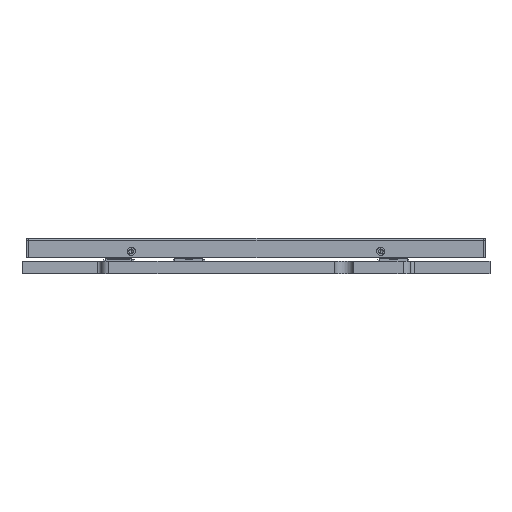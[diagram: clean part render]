
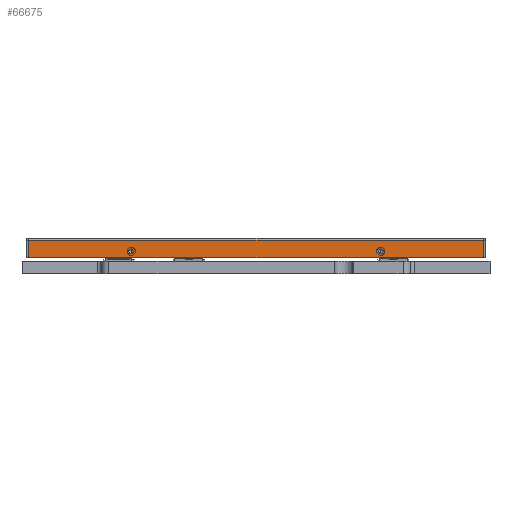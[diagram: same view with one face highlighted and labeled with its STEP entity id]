
A CAD part, front view. The second image highlights one B-rep face of the part: STEP entity #66675.
In plain terms, the highlighted planar face has unit normal (0, -1, 0) as drawn and (0, 0, 1) by its records, which use the part's own axes.
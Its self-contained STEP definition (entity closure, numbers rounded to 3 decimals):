
#15430=DIRECTION('',(0.,-1.,0.));
#15431=VECTOR('',#15430,1.1);
#15432=CARTESIAN_POINT('',(-14.58,1.25,17.055));
#15433=LINE('',#15432,#15431);
#15437=DIRECTION('',(0.,1.,0.));
#15438=VECTOR('',#15437,1.1);
#15439=CARTESIAN_POINT('',(14.58,0.15,17.055));
#15440=LINE('',#15439,#15438);
#15444=DIRECTION('',(1.,0.,0.));
#15445=VECTOR('',#15444,29.16);
#15446=CARTESIAN_POINT('',(-14.58,0.15,17.055));
#15447=LINE('',#15446,#15445);
#15451=CARTESIAN_POINT('',(8.,0.55,17.055));
#15452=DIRECTION('',(0.,0.,1.));
#15453=DIRECTION('',(0.,1.,0.));
#15454=AXIS2_PLACEMENT_3D('',#15451,#15452,#15453);
#15459=CARTESIAN_POINT('',(8.,0.55,17.055));
#15460=DIRECTION('',(0.,0.,1.));
#15461=DIRECTION('',(0.,-1.,0.));
#15462=AXIS2_PLACEMENT_3D('',#15459,#15460,#15461);
#15467=CARTESIAN_POINT('',(-8.,0.55,17.055));
#15468=DIRECTION('',(0.,0.,1.));
#15469=DIRECTION('',(0.,1.,0.));
#15470=AXIS2_PLACEMENT_3D('',#15467,#15468,#15469);
#15475=CARTESIAN_POINT('',(-8.,0.55,17.055));
#15476=DIRECTION('',(0.,0.,1.));
#15477=DIRECTION('',(0.,-1.,0.));
#15478=AXIS2_PLACEMENT_3D('',#15475,#15476,#15477);
#15483=DIRECTION('',(-1.,0.,0.));
#15484=VECTOR('',#15483,29.16);
#15485=CARTESIAN_POINT('',(14.58,1.25,17.055));
#15486=LINE('',#15485,#15484);
#58617=CARTESIAN_POINT('',(-14.58,1.25,17.055));
#58618=CARTESIAN_POINT('',(-14.58,0.15,17.055));
#58619=VERTEX_POINT('',#58617);
#58620=VERTEX_POINT('',#58618);
#58621=CARTESIAN_POINT('',(14.58,0.15,17.055));
#58622=VERTEX_POINT('',#58621);
#58623=CARTESIAN_POINT('',(14.58,1.25,17.055));
#58624=VERTEX_POINT('',#58623);
#58669=CARTESIAN_POINT('',(8.,0.7,17.055));
#58670=CARTESIAN_POINT('',(8.,0.4,17.055));
#58671=VERTEX_POINT('',#58669);
#58672=VERTEX_POINT('',#58670);
#58681=CARTESIAN_POINT('',(-8.,0.7,17.055));
#58682=CARTESIAN_POINT('',(-8.,0.4,17.055));
#58683=VERTEX_POINT('',#58681);
#58684=VERTEX_POINT('',#58682);
#66649=CARTESIAN_POINT('',(-14.58,1.4,17.055));
#66650=DIRECTION('',(0.,0.,1.));
#66651=DIRECTION('',(-1.,0.,0.));
#66652=AXIS2_PLACEMENT_3D('',#66649,#66650,#66651);
#66653=PLANE('',#66652);
#66654=ORIENTED_EDGE('',*,*,#66639,.F.);
#66656=ORIENTED_EDGE('',*,*,#66655,.F.);
#66658=ORIENTED_EDGE('',*,*,#66657,.F.);
#66660=ORIENTED_EDGE('',*,*,#66659,.F.);
#66661=EDGE_LOOP('',(#66654,#66656,#66658,#66660));
#66662=FACE_OUTER_BOUND('',#66661,.F.);
#66664=ORIENTED_EDGE('',*,*,#66663,.T.);
#66666=ORIENTED_EDGE('',*,*,#66665,.T.);
#66667=EDGE_LOOP('',(#66664,#66666));
#66668=FACE_BOUND('',#66667,.F.);
#66670=ORIENTED_EDGE('',*,*,#66669,.T.);
#66672=ORIENTED_EDGE('',*,*,#66671,.T.);
#66673=EDGE_LOOP('',(#66670,#66672));
#66674=FACE_BOUND('',#66673,.F.);
#15455=CIRCLE('',#15454,0.15);
#15463=CIRCLE('',#15462,0.15);
#15471=CIRCLE('',#15470,0.15);
#15479=CIRCLE('',#15478,0.15);
#66639=EDGE_CURVE('',#58619,#58620,#15433,.T.);
#66655=EDGE_CURVE('',#58624,#58619,#15486,.T.);
#66657=EDGE_CURVE('',#58622,#58624,#15440,.T.);
#66659=EDGE_CURVE('',#58620,#58622,#15447,.T.);
#66663=EDGE_CURVE('',#58671,#58672,#15455,.T.);
#66665=EDGE_CURVE('',#58672,#58671,#15463,.T.);
#66669=EDGE_CURVE('',#58683,#58684,#15471,.T.);
#66671=EDGE_CURVE('',#58684,#58683,#15479,.T.);
#66675=ADVANCED_FACE('',(#66662,#66668,#66674),#66653,.T.);
